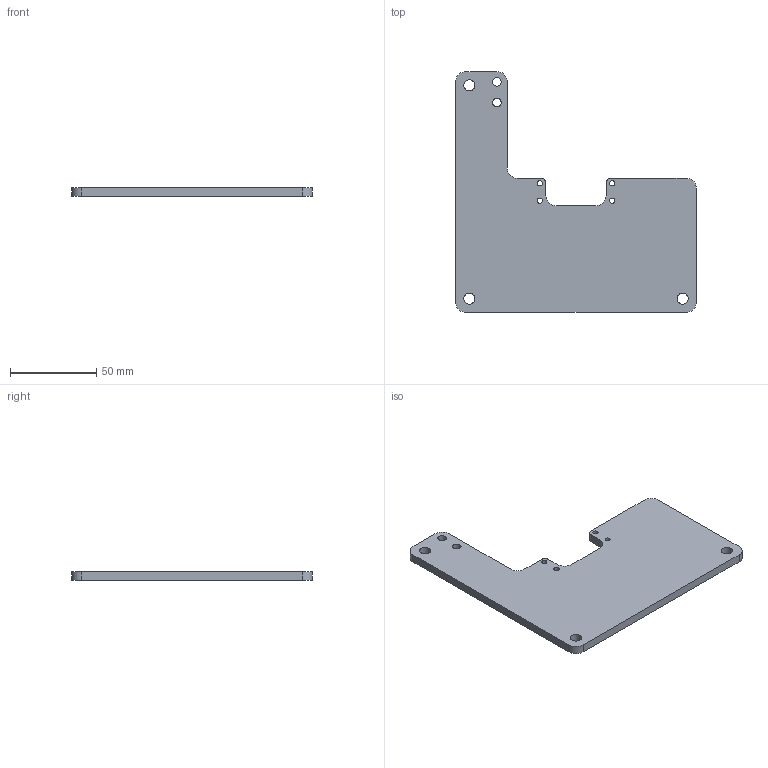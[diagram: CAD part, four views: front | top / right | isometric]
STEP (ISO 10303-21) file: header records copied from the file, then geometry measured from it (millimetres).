
FILE_DESCRIPTION(/* description */ (''),/* implementation_level */ '2;1');
FILE_NAME(/* name */ 'C:\Users\felldings\Documents\Inventor\fabacademy-final\end_holder.step',/* time_stamp */ '2018-06-09T14:55:20+02:00',/* author */ ('felldings'),/* organization */ (''),/* preprocessor_version */ 'ST-DEVELOPER v17',/* originating_system */ 'Autodesk Inventor 2019',/* authorisation */ '');
FILE_SCHEMA (('AUTOMOTIVE_DESIGN { 1 0 10303 214 3 1 1 }'));
Length unit declared in the file: millimetre
Products named in the file (1): wheel_holder
Bounding box: 140 x 140 x 5 mm (x, y, z)
Volume: 60168 mm3; surface area: 27563.2 mm2
Topology: 1 solids, 1 shells, 31 faces, 96 edges, 67 vertices
Faces by surface type: cylinder 19, plane 12
Full cylindrical faces by diameter (mm): 3 x4, 5 x2, 6.5 x3
Entity records: 1184 total; most frequent: DIRECTION 207, CARTESIAN_POINT 195, ORIENTED_EDGE 192, EDGE_CURVE 96, AXIS2_PLACEMENT_3D 79, VERTEX_POINT 67, EDGE_LOOP 49, LINE 49
